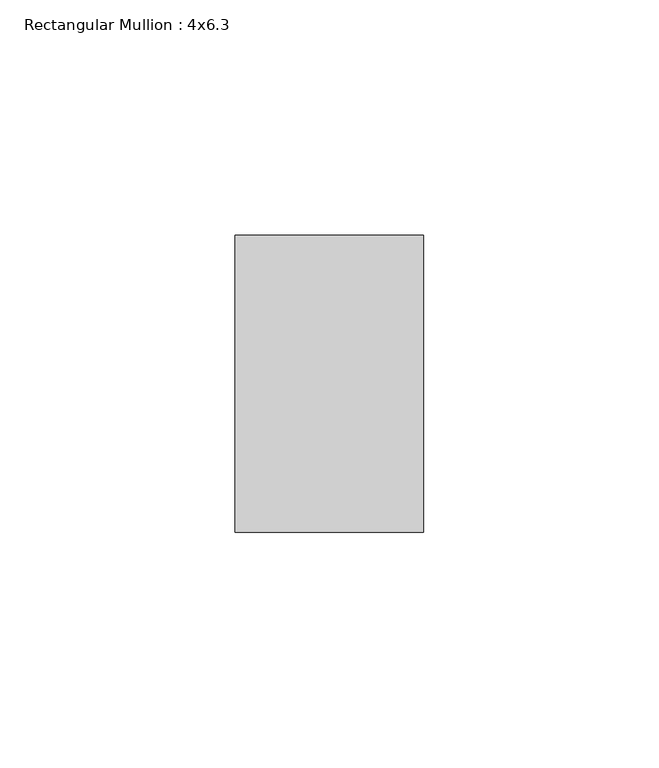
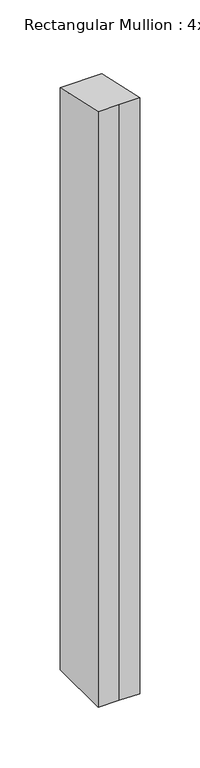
"""IFC4 building model written with IfcOpenShell, lengths in millimetres: member geometry, Rectangular Mullion : 4x6.3."""

from ifc_helpers import new_model, si_unit, origin, place, context, project, spatial, faceted_brep, source, transform, mapped, element, save


def rectangular_mullion_4x6_3_775cad3a(model_context):
    return source(origin(), model_context, "Body", "Brep", [
        faceted_brep([(-20.0, 20.0, -609.601384), (-20.0, 83.0, -609.601384), (20.0, 83.0, -609.601384), (20.0, 20.0, -609.601384), (0.0, 20.0, -609.601384), (0.0, 20.0, -4.3995804), (-20.0, 20.0, -4.3995804), (20.0, 20.0, -4.3995804), (20.0, 83.0, -18.2582585), (-20.0, 83.0, -18.2582585)], [[[0, 1, 2, 3, 4]], [[5, 6, 0, 4]], [[7, 5, 4, 3]], [[8, 7, 3, 2]], [[9, 8, 2, 1]], [[6, 9, 1, 0]], [[6, 5, 7, 8, 9]]]),
    ])


if __name__ == "__main__":
    model = new_model("IFC4")
    model_context = context("Model", 3, world=origin())
    ifc_project = project(units=[si_unit("LENGTHUNIT", "METRE", prefix="MILLI")], contexts=[model_context])
    site = spatial("IfcSite", under=ifc_project)
    building = spatial("IfcBuilding", under=site)
    placement = place(None, origin())
    rectangular_mullion_4x6_3_shape = rectangular_mullion_4x6_3_775cad3a(model_context)
    element("IfcMember", 1, ObjectType="Rectangular Mullion : 4x6.3", at=placement, inside=building, context=model_context, shape_type="MappedRepresentation", body=[
        mapped(rectangular_mullion_4x6_3_shape, transform((0.0, 0.0, 0.0), x_axis=(1.0, 0.0, 0.0), y_axis=(0.0, 1.0, 0.0), z_axis=(0.0, 0.0, 1.0))),
    ])
    save(model, "model.ifc")
